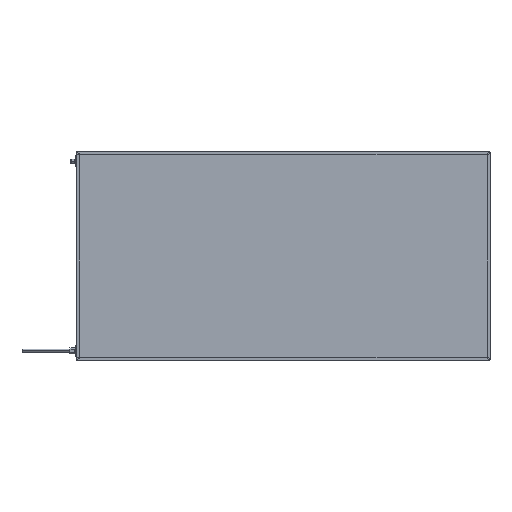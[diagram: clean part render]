
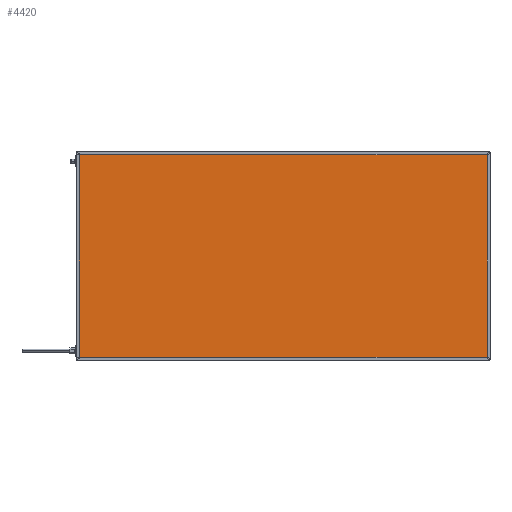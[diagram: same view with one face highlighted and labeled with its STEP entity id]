
A CAD part, top view. The second image highlights one B-rep face of the part: STEP entity #4420.
In plain terms, the highlighted planar face has unit normal (0, 0, 1).
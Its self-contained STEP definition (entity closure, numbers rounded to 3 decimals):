
#334 = CARTESIAN_POINT ( 'NONE',  ( 1196., 0., 41.85 ) ) ;
#775 = DIRECTION ( 'NONE',  ( -1., 0., 0. ) ) ;
#864 = PLANE ( 'NONE',  #2373 ) ;
#1804 = VERTEX_POINT ( 'NONE', #5504 ) ;
#1958 = DIRECTION ( 'NONE',  ( 0., 0., -1. ) ) ;
#2373 = AXIS2_PLACEMENT_3D ( 'NONE', #13280, #1958, #775 ) ;
#3357 = DIRECTION ( 'NONE',  ( 0., -1., 0. ) ) ;
#4063 = LINE ( 'NONE', #15087, #15596 ) ;
#4191 = EDGE_CURVE ( 'NONE', #11782, #1804, #7828, .T. ) ;
#4420 = ADVANCED_FACE ( 'NONE', ( #13098 ), #864, .F. ) ;
#5452 = CARTESIAN_POINT ( 'NONE',  ( 1196., 596., 41.85 ) ) ;
#5504 = CARTESIAN_POINT ( 'NONE',  ( 4., 4., 41.85 ) ) ;
#5589 = VECTOR ( 'NONE', #3357, 1000. ) ;
#5745 = EDGE_CURVE ( 'NONE', #9405, #11782, #6146, .T. ) ;
#6146 = LINE ( 'NONE', #7873, #8836 ) ;
#7072 = ORIENTED_EDGE ( 'NONE', *, *, #4191, .T. ) ;
#7634 = EDGE_LOOP ( 'NONE', ( #10593, #9495, #7072, #13390 ) ) ;
#7828 = LINE ( 'NONE', #12104, #5589 ) ;
#7873 = CARTESIAN_POINT ( 'NONE',  ( 0., 596., 41.85 ) ) ;
#8203 = CARTESIAN_POINT ( 'NONE',  ( 1196., 4., 41.85 ) ) ;
#8836 = VECTOR ( 'NONE', #11713, 1000. ) ;
#9405 = VERTEX_POINT ( 'NONE', #5452 ) ;
#9495 = ORIENTED_EDGE ( 'NONE', *, *, #5745, .T. ) ;
#9620 = DIRECTION ( 'NONE',  ( 1., 0., 0. ) ) ;
#10337 = EDGE_CURVE ( 'NONE', #1804, #17890, #4063, .T. ) ;
#10593 = ORIENTED_EDGE ( 'NONE', *, *, #13783, .T. ) ;
#11713 = DIRECTION ( 'NONE',  ( -1., 0., 0. ) ) ;
#11782 = VERTEX_POINT ( 'NONE', #12429 ) ;
#12104 = CARTESIAN_POINT ( 'NONE',  ( 4., 0., 41.85 ) ) ;
#12429 = CARTESIAN_POINT ( 'NONE',  ( 4., 596., 41.85 ) ) ;
#12932 = LINE ( 'NONE', #334, #13873 ) ;
#13098 = FACE_OUTER_BOUND ( 'NONE', #7634, .T. ) ;
#13280 = CARTESIAN_POINT ( 'NONE',  ( 0., 0., 41.85 ) ) ;
#13390 = ORIENTED_EDGE ( 'NONE', *, *, #10337, .T. ) ;
#13783 = EDGE_CURVE ( 'NONE', #17890, #9405, #12932, .T. ) ;
#13873 = VECTOR ( 'NONE', #17127, 1000. ) ;
#15087 = CARTESIAN_POINT ( 'NONE',  ( 0., 4., 41.85 ) ) ;
#15596 = VECTOR ( 'NONE', #9620, 1000. ) ;
#17127 = DIRECTION ( 'NONE',  ( 0., 1., 0. ) ) ;
#17890 = VERTEX_POINT ( 'NONE', #8203 ) ;
